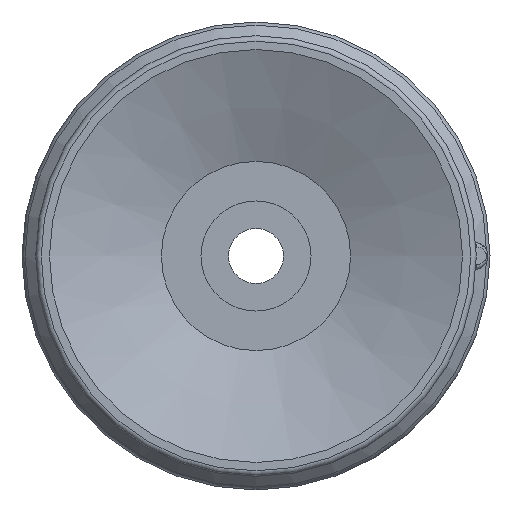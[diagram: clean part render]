
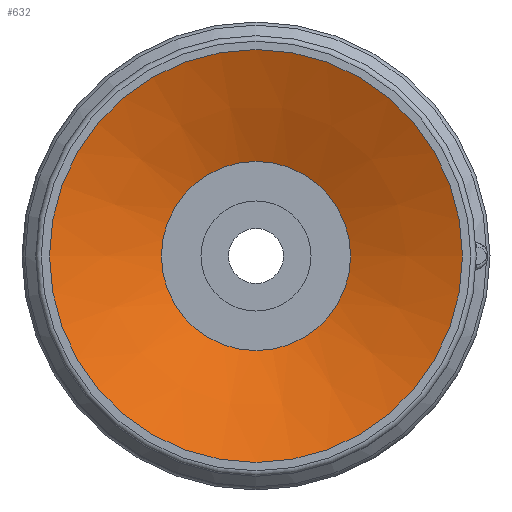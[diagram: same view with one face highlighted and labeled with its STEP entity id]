
A CAD part, front view. The second image highlights one B-rep face of the part: STEP entity #632.
In plain terms, the highlighted conical face has half-angle 67.5 degrees and reference radius 3.437 mm.
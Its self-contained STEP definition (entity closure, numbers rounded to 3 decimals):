
#632=ADVANCED_FACE('',(#884,#885),#886,.F.);
#884=FACE_BOUND('',#2160,.T.);
#885=FACE_OUTER_BOUND('',#2161,.T.);
#886=CONICAL_SURFACE('',#2162,3.437,1.178);
#2160=EDGE_LOOP('',(#2781));
#2161=EDGE_LOOP('',(#2782));
#2162=AXIS2_PLACEMENT_3D('',#2783,#2784,#2785);
#2781=ORIENTED_EDGE('',*,*,#2994,.F.);
#2782=ORIENTED_EDGE('',*,*,#2998,.T.);
#2783=CARTESIAN_POINT('',(0.0,0.0,1.683));
#2784=DIRECTION('',(0.0,0.,-1.0));
#2785=DIRECTION('',(0.0,1.0,0.));
#2994=EDGE_CURVE('',#3290,#3290,#3291,.T.);
#2998=EDGE_CURVE('',#3298,#3298,#3299,.T.);
#3290=VERTEX_POINT('',#4107);
#3291=CIRCLE('',#4108,3.437);
#3298=VERTEX_POINT('',#4115);
#3299=CIRCLE('',#4116,7.5);
#4107=CARTESIAN_POINT('',(-3.437,0.0,1.683));
#4108=AXIS2_PLACEMENT_3D('',#4374,#4375,#4376);
#4115=CARTESIAN_POINT('',(-7.5,0.0,0.));
#4116=AXIS2_PLACEMENT_3D('',#4386,#4387,#4388);
#4374=CARTESIAN_POINT('',(0.0,0.0,1.683));
#4375=DIRECTION('',(0.0,0.,-1.0));
#4376=DIRECTION('',(0.0,1.0,0.));
#4386=CARTESIAN_POINT('',(0.0,0.0,0.));
#4387=DIRECTION('',(0.0,0.,-1.0));
#4388=DIRECTION('',(0.0,1.0,0.));
